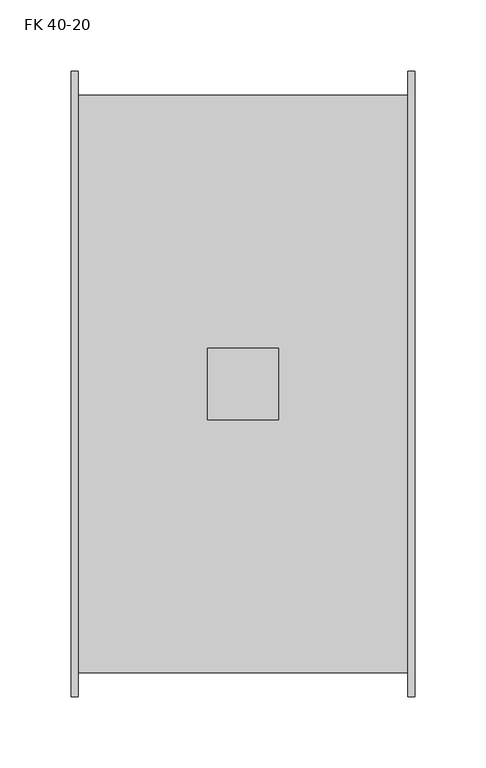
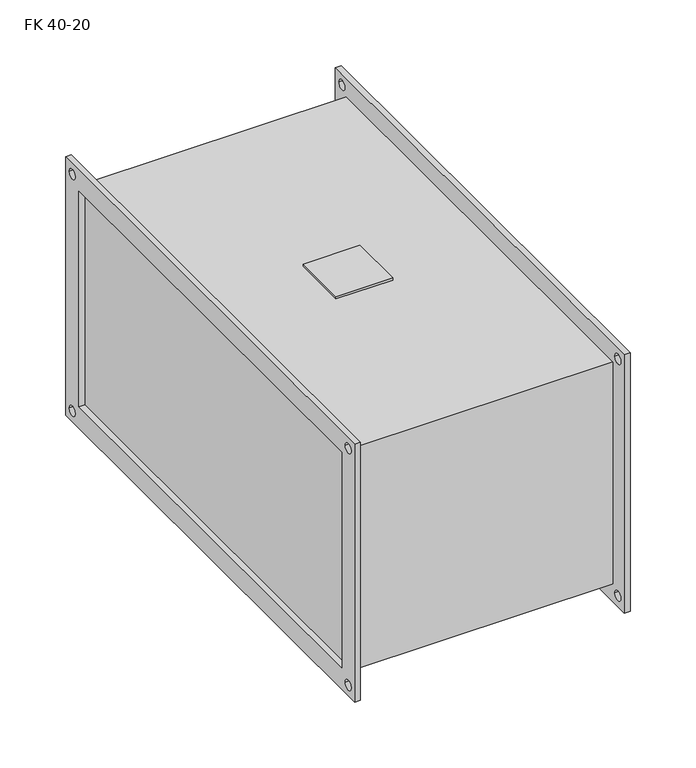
"""IFC4 building model written with IfcOpenShell, lengths in millimetres: damper geometry, KORF_Фильтр_Кассетный_FK : FK 40-20."""

from ifc_helpers import new_model, si_unit, point, frame, frame_2d, origin, place, context, project, spatial, polyline, circle_curve, trimmed, segment, composite_curve, outline, extrude, source, transform, mapped, element, save


def fk_40_20_84f0d2ef(model_context):
    return source(origin(), model_context, "Body", "SweptSolid", [
        extrude(outline(polyline([(96.0, -25.0), (96.0, 25.0), (146.0, 25.0), (146.0, -25.0), (96.0, -25.0)])), frame((0.0, 0.0, 103.0), z_axis=(0.0, 0.0, 1.0), x_axis=(1.0, 0.0, 0.0)), (0.0, 0.0, 1.0), 2.0),
        extrude(outline(polyline([(-220.0, 120.0), (220.0, 120.0), (220.0, -120.0), (-220.0, -120.0), (-220.0, 120.0)]), holes=[polyline([(-200.0, 100.0), (-200.0, -100.0), (200.0, -100.0), (200.0, 100.0), (-200.0, 100.0)]), composite_curve([segment(trimmed(circle_curve(frame_2d((210.0, 110.0)), 4.5), [point((205.5, 110.0))], [point((214.5, 110.0))], True, "CARTESIAN"), True, "CONTINUOUS"), segment(trimmed(circle_curve(frame_2d((210.0, 110.0)), 4.5), [point((214.5, 110.0))], [point((205.5, 110.0))], True, "CARTESIAN"), True, "CONTINUOUS")], self_intersect=False), composite_curve([segment(trimmed(circle_curve(frame_2d((-210.0, 110.0)), 4.5), [point((-214.5, 110.0))], [point((-205.5, 110.0))], True, "CARTESIAN"), True, "CONTINUOUS"), segment(trimmed(circle_curve(frame_2d((-210.0, 110.0)), 4.5), [point((-205.5, 110.0))], [point((-214.5, 110.0))], True, "CARTESIAN"), True, "CONTINUOUS")], self_intersect=False), composite_curve([segment(trimmed(circle_curve(frame_2d((-210.0, -110.0)), 4.5), [point((-214.5, -110.0))], [point((-205.5, -110.0))], True, "CARTESIAN"), True, "CONTINUOUS"), segment(trimmed(circle_curve(frame_2d((-210.0, -110.0)), 4.5), [point((-205.5, -110.0))], [point((-214.5, -110.0))], True, "CARTESIAN"), True, "CONTINUOUS")], self_intersect=False), composite_curve([segment(trimmed(circle_curve(frame_2d((210.0, -110.0)), 4.5), [point((205.5, -110.0))], [point((214.5, -110.0))], True, "CARTESIAN"), True, "CONTINUOUS"), segment(trimmed(circle_curve(frame_2d((210.0, -110.0)), 4.5), [point((214.5, -110.0))], [point((205.5, -110.0))], True, "CARTESIAN"), True, "CONTINUOUS")], self_intersect=False)]), frame((237.0, 0.0, 0.0), z_axis=(1.0, 0.0, 0.0), x_axis=(0.0, 1.0, 0.0)), (0.0, 0.0, 1.0), 5.0),
        extrude(outline(polyline([(-220.0, 120.0), (220.0, 120.0), (220.0, -120.0), (-220.0, -120.0), (-220.0, 120.0)]), holes=[polyline([(-200.0, 100.0), (-200.0, -100.0), (200.0, -100.0), (200.0, 100.0), (-200.0, 100.0)]), composite_curve([segment(trimmed(circle_curve(frame_2d((210.0, 110.0)), 4.5), [point((205.5, 110.0))], [point((214.5, 110.0))], True, "CARTESIAN"), True, "CONTINUOUS"), segment(trimmed(circle_curve(frame_2d((210.0, 110.0)), 4.5), [point((214.5, 110.0))], [point((205.5, 110.0))], True, "CARTESIAN"), True, "CONTINUOUS")], self_intersect=False), composite_curve([segment(trimmed(circle_curve(frame_2d((-210.0, 110.0)), 4.5), [point((-214.5, 110.0))], [point((-205.5, 110.0))], True, "CARTESIAN"), True, "CONTINUOUS"), segment(trimmed(circle_curve(frame_2d((-210.0, 110.0)), 4.5), [point((-205.5, 110.0))], [point((-214.5, 110.0))], True, "CARTESIAN"), True, "CONTINUOUS")], self_intersect=False), composite_curve([segment(trimmed(circle_curve(frame_2d((-210.0, -110.0)), 4.5), [point((-214.5, -110.0))], [point((-205.5, -110.0))], True, "CARTESIAN"), True, "CONTINUOUS"), segment(trimmed(circle_curve(frame_2d((-210.0, -110.0)), 4.5), [point((-205.5, -110.0))], [point((-214.5, -110.0))], True, "CARTESIAN"), True, "CONTINUOUS")], self_intersect=False), composite_curve([segment(trimmed(circle_curve(frame_2d((210.0, -110.0)), 4.5), [point((205.5, -110.0))], [point((214.5, -110.0))], True, "CARTESIAN"), True, "CONTINUOUS"), segment(trimmed(circle_curve(frame_2d((210.0, -110.0)), 4.5), [point((214.5, -110.0))], [point((205.5, -110.0))], True, "CARTESIAN"), True, "CONTINUOUS")], self_intersect=False)]), frame((0.0, 0.0, 0.0), z_axis=(1.0, 0.0, 0.0), x_axis=(0.0, 1.0, 0.0)), (0.0, 0.0, 1.0), 5.0),
        extrude(outline(polyline([(237.0, 203.0), (237.0, -203.0), (5.0, -203.0), (5.0, 203.0), (237.0, 203.0)])), frame((0.0, 0.0, -103.0), z_axis=(0.0, 0.0, 1.0), x_axis=(1.0, 0.0, 0.0)), (0.0, 0.0, 1.0), 206.0),
    ])


if __name__ == "__main__":
    model = new_model("IFC4")
    model_context = context("Model", 3, world=origin())
    ifc_project = project(units=[si_unit("LENGTHUNIT", "METRE", prefix="MILLI")], contexts=[model_context])
    site = spatial("IfcSite", under=ifc_project)
    building = spatial("IfcBuilding", under=site)
    placement = place(None, origin())
    fk_40_20_shape = fk_40_20_84f0d2ef(model_context)
    element("IfcDamper", 1, ObjectType="KORF_Фильтр_Кассетный_FK : FK 40-20", at=placement, inside=building, context=model_context, shape_type="MappedRepresentation", body=[
        mapped(fk_40_20_shape, transform((0.0, 0.0, 0.0), x_axis=(1.0, 0.0, 0.0), y_axis=(0.0, 1.0, 0.0), z_axis=(0.0, 0.0, 1.0))),
    ])
    save(model, "model.ifc")
